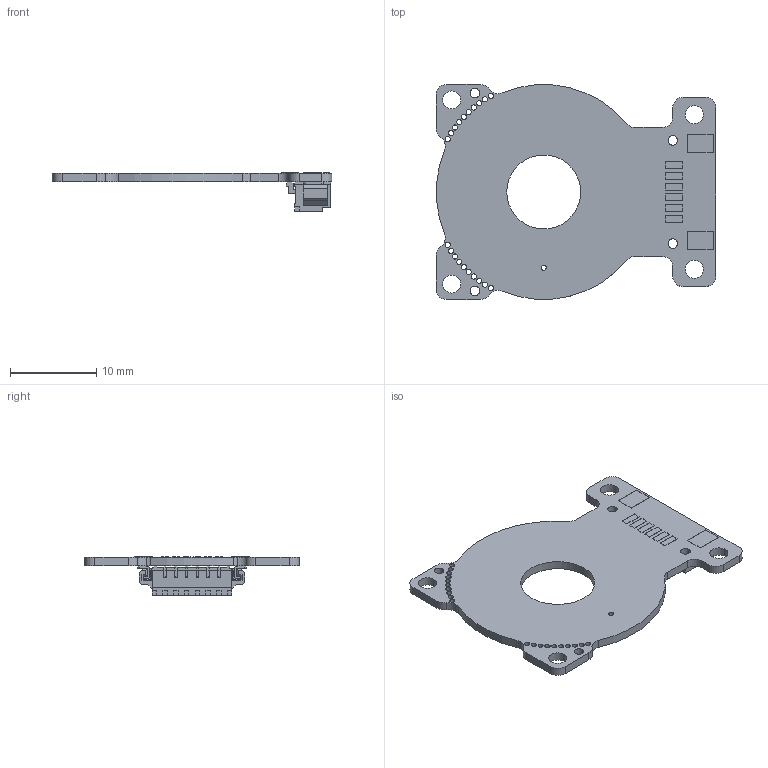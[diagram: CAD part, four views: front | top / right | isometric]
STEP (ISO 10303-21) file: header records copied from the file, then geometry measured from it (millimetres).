
FILE_DESCRIPTION (( 'STEP AP214' ), '1' );
FILE_NAME ('033_2015_0001_(25mm_B3_Sensor_RearCon_3D).STEP', '2023-09-21T14:06:52', ( '' ), ( '' ), 'SwSTEP 2.0', 'SolidWorks 2020', '' );
FILE_SCHEMA (( 'AUTOMOTIVE_DESIGN' ));
Length unit declared in the file: millimetre
Products named in the file (3): Molex532610671; 033_2015_0001_(25mm_B3_Sensor_RearCon_3D); 010-0158_0001_(25mm_B3_Rotary_Sensor_PCB)
Assembly tree (2 placements, depth 2):
  033_2015_0001_(25mm_B3_Sensor_RearCon_3D)
    010-0158_0001_(25mm_B3_Rotary_Sensor_PCB)
    Molex532610671
Bounding box: 32.5 x 25 x 4.46 mm (x, y, z)
Volume: 701.1 mm3; surface area: 1791.4 mm2
Topology: 2 solids, 2 shells, 484 faces, 1304 edges, 854 vertices
Faces by surface type: plane 381, cylinder 103
Entity records: 20412 total; most frequent: CARTESIAN_POINT 2647, ORIENTED_EDGE 2608, DIRECTION 2492, EDGE_CURVE 1304, LINE 1094, VECTOR 1094, VERTEX_POINT 854, AXIS2_PLACEMENT_3D 699
